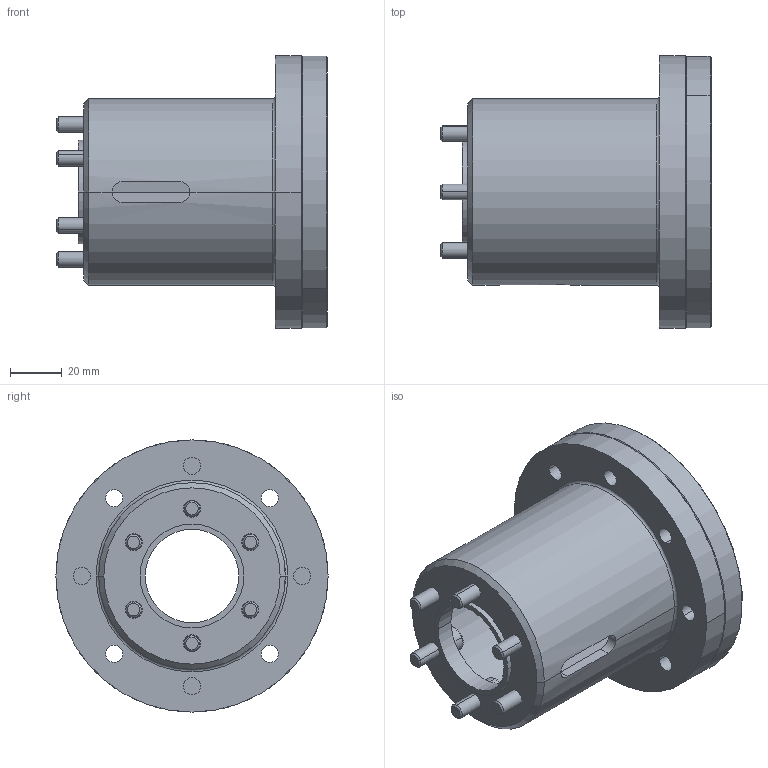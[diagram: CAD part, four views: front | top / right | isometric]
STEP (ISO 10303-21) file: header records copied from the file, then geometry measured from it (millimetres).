
FILE_DESCRIPTION (( 'STEP AP203' ), '1' );
FILE_NAME ('MG105.STEP', '2024-01-16T07:49:40', ( '' ), ( '' ), 'SwSTEP 2.0', 'SolidWorks 2022', '' );
FILE_SCHEMA (( 'CONFIG_CONTROL_DESIGN' ));
Length unit declared in the file: millimetre
Products named in the file (1): MG105
Bounding box: 104.4 x 105 x 105 mm (x, y, z)
Volume: 178808.7 mm3; surface area: 75156.9 mm2
Topology: 14 solids, 14 shells, 250 faces, 606 edges, 388 vertices
Faces by surface type: cylinder 106, plane 78, cone 38, torus 28
Entity records: 7507 total; most frequent: CARTESIAN_POINT 1401, DIRECTION 1354, ORIENTED_EDGE 1188, EDGE_CURVE 594, AXIS2_PLACEMENT_3D 565, VERTEX_POINT 388, EDGE_LOOP 320, CIRCLE 314
